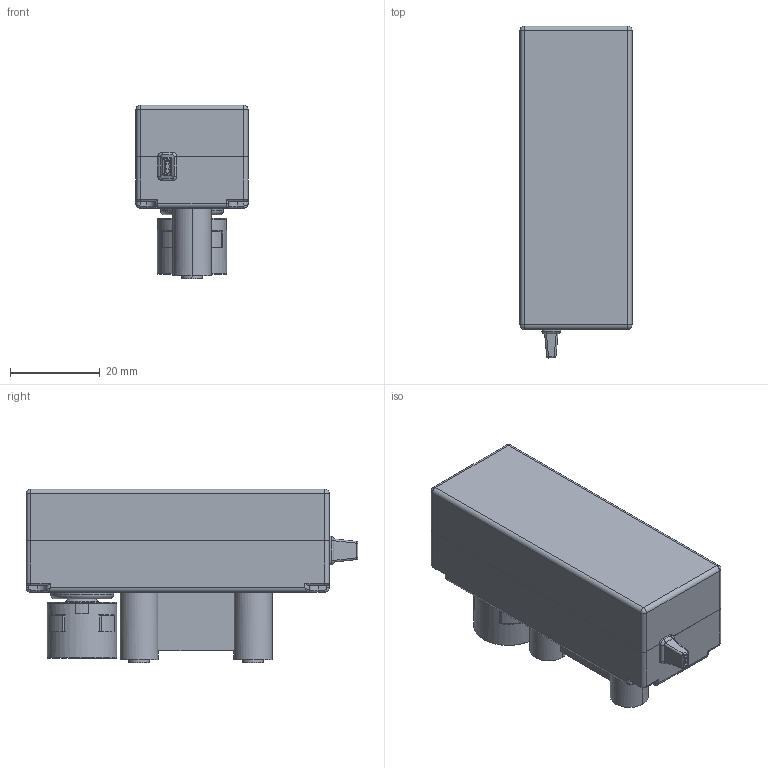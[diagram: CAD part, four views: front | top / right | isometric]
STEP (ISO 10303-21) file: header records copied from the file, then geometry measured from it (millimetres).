
FILE_DESCRIPTION (( 'STEP AP203' ), '1' );
FILE_NAME ('VB1-Motor-Assy.STEP', '2007-11-07T15:58:15', ( 'Innovation First, Inc.' ), ( 'Innovation First, Inc.' ), 'SwSTEP 2.0', 'SolidWorks 2006303', '' );
FILE_SCHEMA (( 'CONFIG_CONTROL_DESIGN' ));
Length unit declared in the file: inch
Products named in the file (7): VB1-MOTOR-HOUSING-TOP; Motor-Clutch; VB1-Motor-Assy; VB1-MOTOR-WIRE-SUPPORT; MOTOR-INSERT-NUT; VB1-MOTOR-SOCKET; VB1-MOTOR-HOUSING-BOTTOM
Assembly tree (7 placements, depth 2):
  VB1-Motor-Assy
    MOTOR-INSERT-NUT  x2
    VB1-MOTOR-HOUSING-TOP
    VB1-MOTOR-SOCKET
    VB1-MOTOR-WIRE-SUPPORT
    Motor-Clutch
    VB1-MOTOR-HOUSING-BOTTOM
Bounding box: 25 x 74 x 38.75 mm (x, y, z)
Volume: 15960.5 mm3; surface area: 21219.6 mm2
Topology: 8 solids, 8 shells, 1155 faces, 3323 edges, 2211 vertices
Faces by surface type: cylinder 620, plane 445, bspline 40, torus 24, cone 18, sphere 8
Entity records: 35197 total; most frequent: CARTESIAN_POINT 13896, ORIENTED_EDGE 4698, DIRECTION 3685, EDGE_CURVE 2349, VERTEX_POINT 1554, AXIS2_PLACEMENT_3D 1247, VECTOR 1191, LINE 1191
